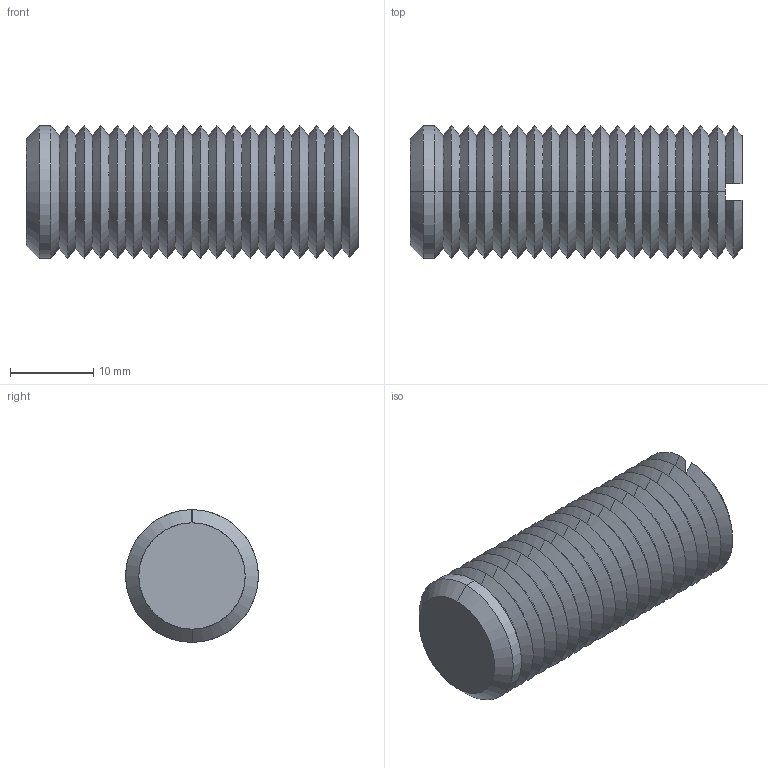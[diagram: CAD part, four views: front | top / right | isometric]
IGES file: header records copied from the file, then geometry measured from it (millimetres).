
Start section: SolidWorks IGES file using analytic representation for surfaces
Global section: file name: C:\Documents and Settings\IANO\Desktop\Temp File\Process pending\EXISTING\34300_v2\34300_v2_20170622_IGES\34300.W0162.igs; native system: SolidWorks 2009; preprocessor: SolidWorks 2009; author: IANO; date: 170622.094359; units: millimetre
Bounding box: 40 x 16 x 16 mm (x, y, z)
Surface area: 3233.6 mm2 (no closed solid volume)
Topology: 0 solids, 0 shells, 84 faces, 400 edges, 400 vertices
Faces by surface type: revolution 78, bspline 6
